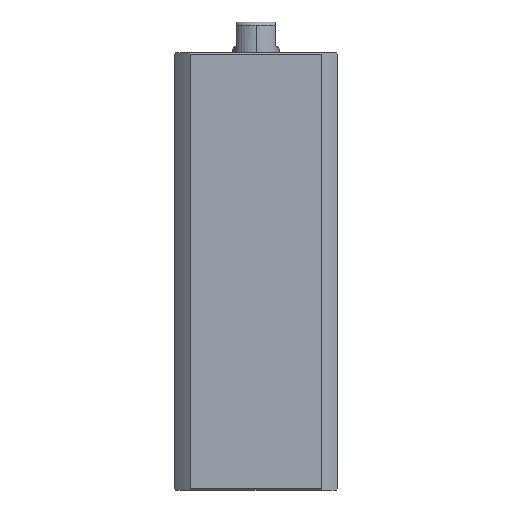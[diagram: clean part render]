
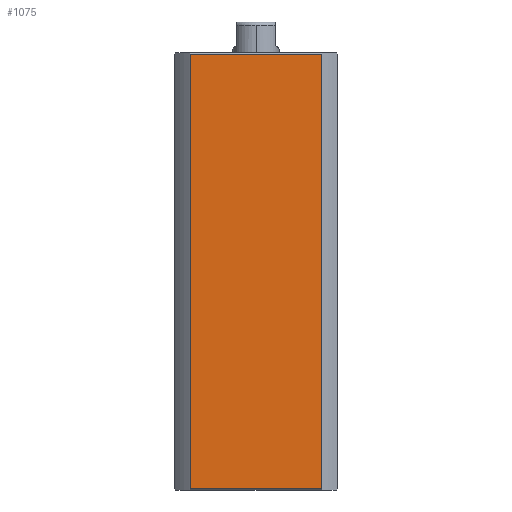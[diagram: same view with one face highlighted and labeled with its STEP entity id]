
A CAD part, left-side view. The second image highlights one B-rep face of the part: STEP entity #1075.
In plain terms, the highlighted planar face has unit normal (-1, 0, 0).
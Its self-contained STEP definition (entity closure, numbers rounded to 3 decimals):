
#166 = ORIENTED_EDGE ( 'NONE', *, *, #6070, .F. ) ;
#382 = VECTOR ( 'NONE', #3515, 1000. ) ;
#423 = DIRECTION ( 'NONE',  ( 0., 0., -1. ) ) ;
#652 = EDGE_CURVE ( 'NONE', #742, #3706, #5147, .T. ) ;
#742 = VERTEX_POINT ( 'NONE', #7498 ) ;
#918 = AXIS2_PLACEMENT_3D ( 'NONE', #5081, #4671, #6514 ) ;
#1075 = ADVANCED_FACE ( 'NONE', ( #10525 ), #5610, .F. ) ;
#1244 = EDGE_LOOP ( 'NONE', ( #2152, #6182, #166, #12114 ) ) ;
#2152 = ORIENTED_EDGE ( 'NONE', *, *, #8640, .F. ) ;
#2292 = CARTESIAN_POINT ( 'NONE',  ( -21., -16.971, -187. ) ) ;
#2492 = VERTEX_POINT ( 'NONE', #7409 ) ;
#2760 = LINE ( 'NONE', #2292, #7719 ) ;
#3515 = DIRECTION ( 'NONE',  ( 0., 0., 1. ) ) ;
#3706 = VERTEX_POINT ( 'NONE', #8396 ) ;
#3871 = VERTEX_POINT ( 'NONE', #8591 ) ;
#4671 = DIRECTION ( 'NONE',  ( 1., 0., 0. ) ) ;
#5081 = CARTESIAN_POINT ( 'NONE',  ( -21., 21., 113. ) ) ;
#5147 = LINE ( 'NONE', #7538, #10081 ) ;
#5327 = CARTESIAN_POINT ( 'NONE',  ( -21., 21., 112.7 ) ) ;
#5610 = PLANE ( 'NONE',  #918 ) ;
#6070 = EDGE_CURVE ( 'NONE', #2492, #3706, #2760, .T. ) ;
#6182 = ORIENTED_EDGE ( 'NONE', *, *, #652, .T. ) ;
#6457 = LINE ( 'NONE', #5327, #8642 ) ;
#6514 = DIRECTION ( 'NONE',  ( 0., 1., 0. ) ) ;
#7226 = CARTESIAN_POINT ( 'NONE',  ( -21., 16.971, -187. ) ) ;
#7409 = CARTESIAN_POINT ( 'NONE',  ( -21., -16.971, 112.7 ) ) ;
#7498 = CARTESIAN_POINT ( 'NONE',  ( -21., 16.971, 0.3 ) ) ;
#7538 = CARTESIAN_POINT ( 'NONE',  ( -21., 21., 0.3 ) ) ;
#7719 = VECTOR ( 'NONE', #423, 1000. ) ;
#8396 = CARTESIAN_POINT ( 'NONE',  ( -21., -16.971, 0.3 ) ) ;
#8459 = DIRECTION ( 'NONE',  ( 0., -1., 0. ) ) ;
#8591 = CARTESIAN_POINT ( 'NONE',  ( -21., 16.971, 112.7 ) ) ;
#8640 = EDGE_CURVE ( 'NONE', #742, #3871, #10029, .T. ) ;
#8642 = VECTOR ( 'NONE', #10904, 1000. ) ;
#10029 = LINE ( 'NONE', #7226, #382 ) ;
#10081 = VECTOR ( 'NONE', #8459, 1000. ) ;
#10525 = FACE_OUTER_BOUND ( 'NONE', #1244, .T. ) ;
#10904 = DIRECTION ( 'NONE',  ( 0., 1., 0. ) ) ;
#11501 = EDGE_CURVE ( 'NONE', #2492, #3871, #6457, .T. ) ;
#12114 = ORIENTED_EDGE ( 'NONE', *, *, #11501, .T. ) ;
